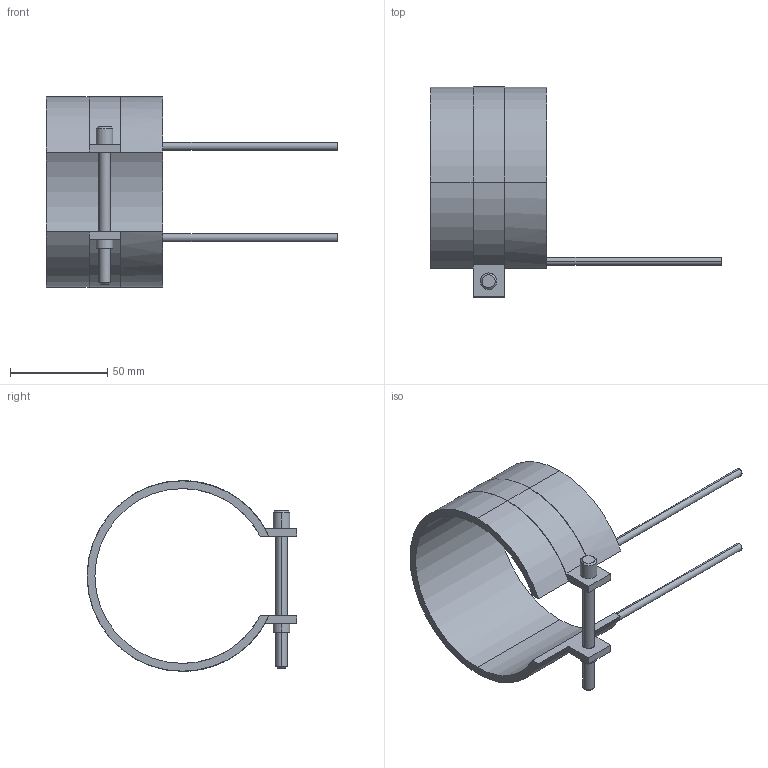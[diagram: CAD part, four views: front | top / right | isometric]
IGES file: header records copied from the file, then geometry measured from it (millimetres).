
Start section: START RECORD GO HERE.
Global section: file name: 14090060.igs; native system: DASSAULT SYSTEMES CATIA V5 R20 - www.3ds.com; preprocessor: CATIA Version 5 Release 20 ; author: Utente; organization: NB04-ASUS; date: 20210406.180906; units: millimetre
Bounding box: 150 x 108.1 x 98.2 mm (x, y, z)
Surface area: 37849.2 mm2 (no closed solid volume)
Topology: 0 solids, 0 shells, 45 faces, 232 edges, 232 vertices
Faces by surface type: revolution 28, plane 17
